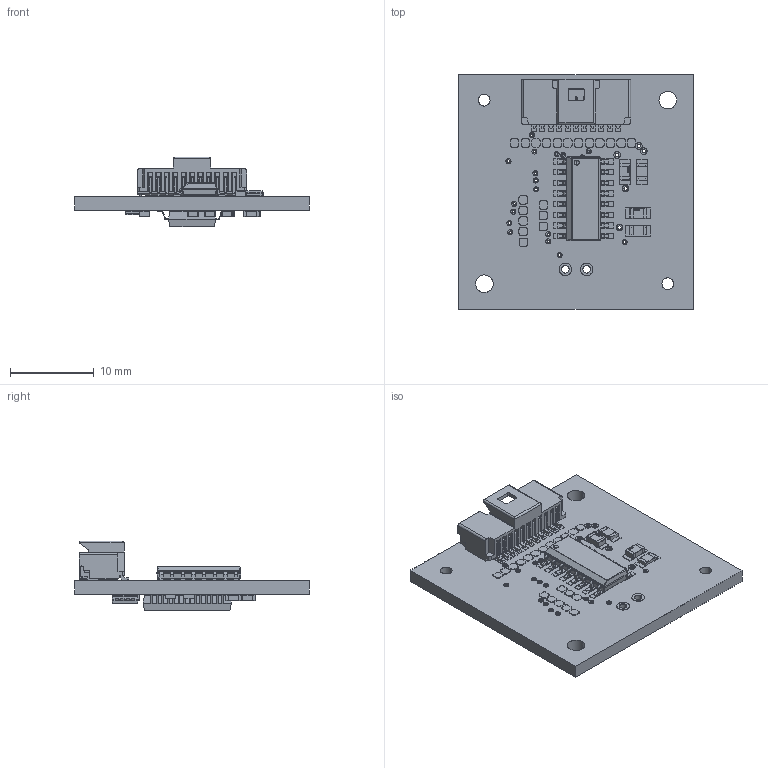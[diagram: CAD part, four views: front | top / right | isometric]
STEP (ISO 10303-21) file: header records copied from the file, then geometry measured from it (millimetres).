
FILE_DESCRIPTION (( 'STEP AP203' ), '1' );
FILE_NAME ('MODM213-3D.STEP', '2019-03-06T10:13:33', ( '' ), ( '' ), 'SwSTEP 2.0', 'SolidWorks 2016', '' );
FILE_SCHEMA (( 'CONFIG_CONTROL_DESIGN' ));
Length unit declared in the file: millimetre
Products named in the file (1): MODM213-3D
Bounding box: 28 x 28 x 8.32 mm (x, y, z)
Volume: 1549.9 mm3; surface area: 3284.1 mm2
Topology: 244 solids, 244 shells, 4285 faces, 10237 edges, 6459 vertices
Faces by surface type: plane 2665, bspline 958, cylinder 570, cone 92
Entity records: 173340 total; most frequent: CARTESIAN_POINT 82377, ORIENTED_EDGE 20330, DIRECTION 15077, EDGE_CURVE 10165, LINE 6591, VECTOR 6591, VERTEX_POINT 6459, EDGE_LOOP 4616
